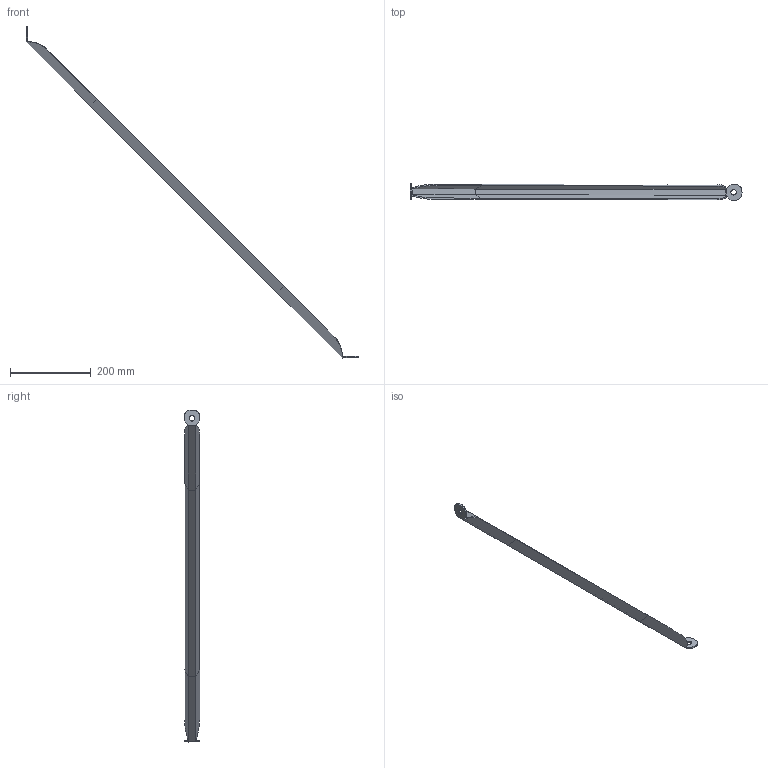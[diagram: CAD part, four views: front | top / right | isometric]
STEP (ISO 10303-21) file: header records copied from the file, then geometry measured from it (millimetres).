
FILE_DESCRIPTION(('TurboCAD Mac Pro'),'Build 980');
FILE_NAME('P2458-36.stp',' ',(''),(''),'ACIS Interop','IMSI','TurboCAD Mac Pro BY IMSI, INCORPORATED');
FILE_SCHEMA(('automotive_design'));
Length unit declared in the file: inch
Products named in the file (1): 1
Bounding box: 821.92 x 38.9 x 821.92 mm (x, y, z)
Volume: 230670.2 mm3; surface area: 148348.9 mm2
Topology: 1 solids, 1 shells, 72 faces, 191 edges, 121 vertices
Faces by surface type: plane 54, bspline 18
Entity records: 4027 total; most frequent: CARTESIAN_POINT 936, ORIENTED_EDGE 382, DIRECTION 248, STYLED_ITEM 246, PRESENTATION_STYLE_ASSIGNMENT 246, COLOUR_RGB 246, EDGE_CURVE 191, CURVE_STYLE 173
